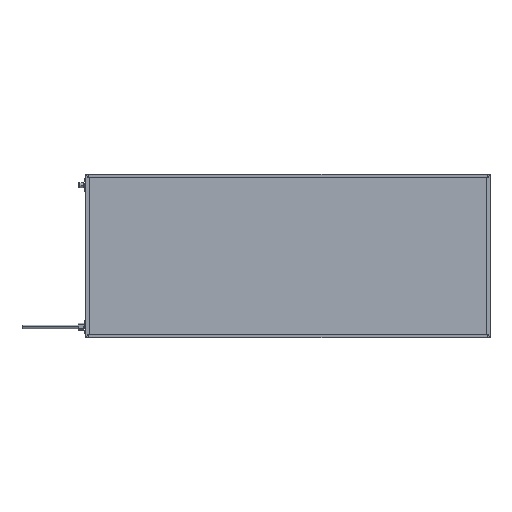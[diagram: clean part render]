
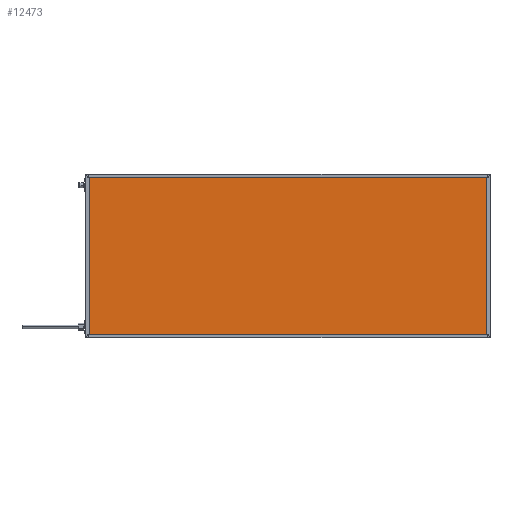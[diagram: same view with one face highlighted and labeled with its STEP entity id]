
A CAD part, top view. The second image highlights one B-rep face of the part: STEP entity #12473.
In plain terms, the highlighted planar face has unit normal (0, 0, 1).
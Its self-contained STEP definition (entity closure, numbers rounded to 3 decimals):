
#1174 = ORIENTED_EDGE ( 'NONE', *, *, #16178, .T. ) ;
#1643 = VECTOR ( 'NONE', #13014, 1000. ) ;
#1985 = VECTOR ( 'NONE', #9946, 1000. ) ;
#2155 = DIRECTION ( 'NONE',  ( 0., 0., -1. ) ) ;
#2822 = CARTESIAN_POINT ( 'NONE',  ( 0., 4., 41.85 ) ) ;
#3431 = FACE_OUTER_BOUND ( 'NONE', #13750, .T. ) ;
#3870 = VECTOR ( 'NONE', #17149, 1000. ) ;
#4684 = ORIENTED_EDGE ( 'NONE', *, *, #11958, .T. ) ;
#4704 = VERTEX_POINT ( 'NONE', #5952 ) ;
#4973 = CARTESIAN_POINT ( 'NONE',  ( 0., 0., 41.85 ) ) ;
#5647 = EDGE_CURVE ( 'NONE', #13328, #14871, #12816, .T. ) ;
#5952 = CARTESIAN_POINT ( 'NONE',  ( 996., 4., 41.85 ) ) ;
#6180 = EDGE_CURVE ( 'NONE', #7456, #4704, #15325, .T. ) ;
#6318 = ORIENTED_EDGE ( 'NONE', *, *, #5647, .T. ) ;
#7088 = CARTESIAN_POINT ( 'NONE',  ( 0., 396., 41.85 ) ) ;
#7456 = VERTEX_POINT ( 'NONE', #14665 ) ;
#7779 = VECTOR ( 'NONE', #10197, 1000. ) ;
#8801 = CARTESIAN_POINT ( 'NONE',  ( 4., 396., 41.85 ) ) ;
#9946 = DIRECTION ( 'NONE',  ( 1., 0., 0. ) ) ;
#10197 = DIRECTION ( 'NONE',  ( -1., 0., 0. ) ) ;
#10392 = CARTESIAN_POINT ( 'NONE',  ( 4., 0., 41.85 ) ) ;
#11646 = CARTESIAN_POINT ( 'NONE',  ( 996., 0., 41.85 ) ) ;
#11926 = LINE ( 'NONE', #10392, #3870 ) ;
#11958 = EDGE_CURVE ( 'NONE', #4704, #13328, #12734, .T. ) ;
#12473 = ADVANCED_FACE ( 'NONE', ( #3431 ), #14463, .F. ) ;
#12734 = LINE ( 'NONE', #11646, #1643 ) ;
#12816 = LINE ( 'NONE', #7088, #7779 ) ;
#13014 = DIRECTION ( 'NONE',  ( 0., 1., 0. ) ) ;
#13328 = VERTEX_POINT ( 'NONE', #14105 ) ;
#13750 = EDGE_LOOP ( 'NONE', ( #4684, #6318, #1174, #14417 ) ) ;
#14105 = CARTESIAN_POINT ( 'NONE',  ( 996., 396., 41.85 ) ) ;
#14417 = ORIENTED_EDGE ( 'NONE', *, *, #6180, .T. ) ;
#14463 = PLANE ( 'NONE',  #17240 ) ;
#14648 = DIRECTION ( 'NONE',  ( -1., 0., 0. ) ) ;
#14665 = CARTESIAN_POINT ( 'NONE',  ( 4., 4., 41.85 ) ) ;
#14871 = VERTEX_POINT ( 'NONE', #8801 ) ;
#15325 = LINE ( 'NONE', #2822, #1985 ) ;
#16178 = EDGE_CURVE ( 'NONE', #14871, #7456, #11926, .T. ) ;
#17149 = DIRECTION ( 'NONE',  ( 0., -1., 0. ) ) ;
#17240 = AXIS2_PLACEMENT_3D ( 'NONE', #4973, #2155, #14648 ) ;
